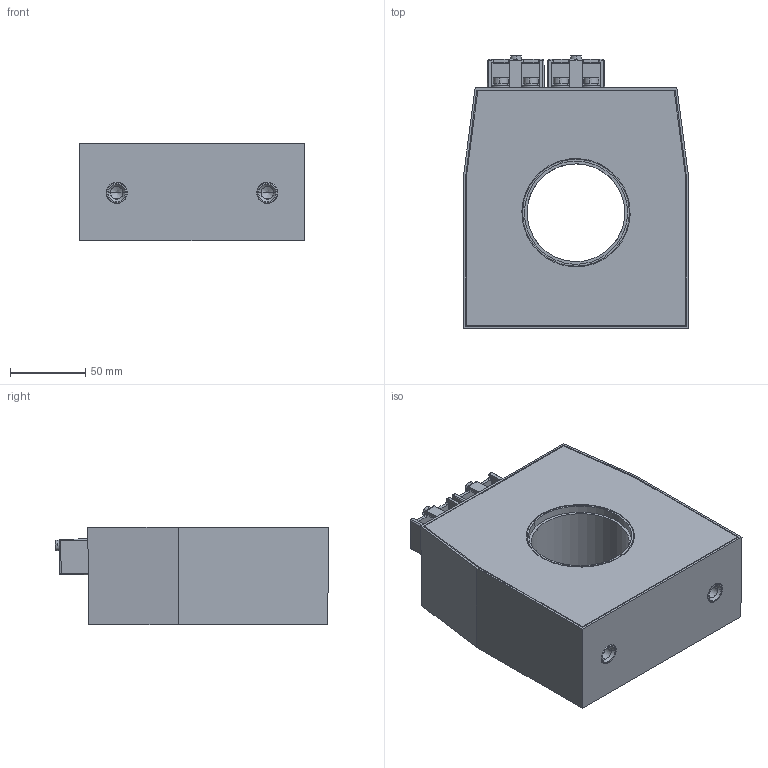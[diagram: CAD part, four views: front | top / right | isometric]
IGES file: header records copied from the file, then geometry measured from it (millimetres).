
Start section: IGES file generated from Kompas f.0 for Windows drawing by the IGES translator from Ascon Ltd., translator version IGESOUT-5.1.
Global section: file name: C:\Ðàáîòà\Èçâåùåíèÿ 5\ÒØÏ-ÍÒÇ-0.66-61...,71...,81... (ñáîðíûé)\Âåðñèÿ îò 21.05.24\3D ìîäåëü\ÒØÏ-ÍÒÇ-0,66-81À\ÒØÏ-ÍÒÇ-0,66-81À (65 ìì, 1-é ãàáàðèò).igs; native system: Kompas( 32 bit ) for Windows; preprocessor: 1.0; author: 123; organization: Microsoft; date: -17750727:094423; units: millimetre
Bounding box: 150 x 181.53 x 65 mm (x, y, z)
Volume: 346823 mm3; surface area: 209258.1 mm2
Topology: 27 solids, 27 shells, 521 faces, 1199 edges, 733 vertices
Faces by surface type: revolution 300, bspline 221
